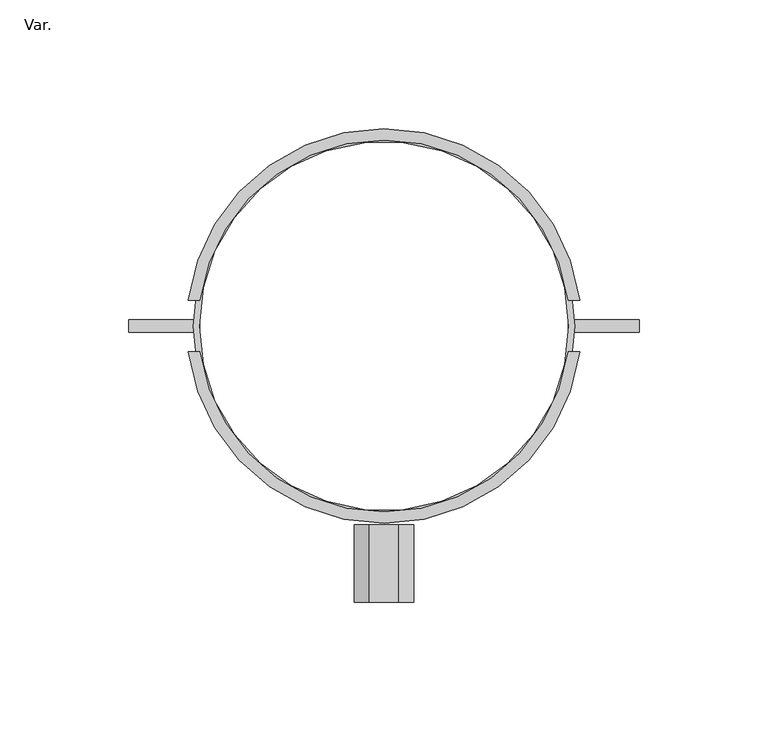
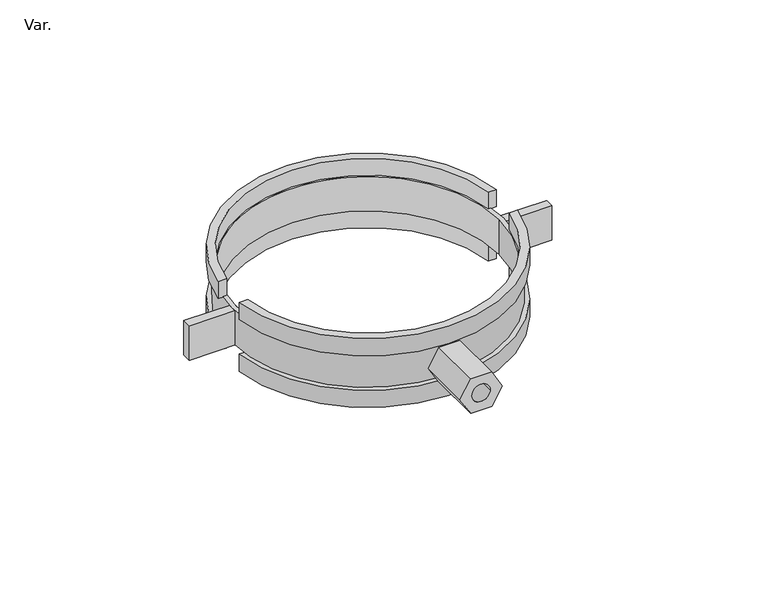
"""IFC4 building model written with IfcOpenShell, lengths in millimetres: pipe fitting geometry, AmancoWavin_Unionesdetubería_SilentiumAbrazaderaIsofonicahorizontal : Var.."""

from ifc_helpers import new_model, si_unit, point, frame, origin, origin_2d, place, context, project, spatial, polyline, circle_curve, trimmed, segment, composite_curve, outline, extrude, source, transform, mapped, element, save


def var_dc387d2e(model_context):
    return source(origin(), model_context, "Body", "SweptSolid", [
        extrude(outline(polyline([(0.0, -11.5470054), (-10.0, -5.7735027), (-10.0, 5.7735027), (0.0, 11.5470054), (10.0, 5.7735027), (10.0, -5.7735027), (0.0, -11.5470054)]), holes=[composite_curve([segment(trimmed(circle_curve(origin_2d(), 5.0), [point((0.0, -5.0))], [point((0.0, 5.0))], True, "CARTESIAN"), True, "CONTINUOUS"), segment(trimmed(circle_curve(origin_2d(), 5.0), [point((0.0, 5.0))], [point((0.0, -5.0))], True, "CARTESIAN"), True, "CONTINUOUS")], self_intersect=False)]), frame((0.0, -107.25, 0.0), z_axis=(0.0, 1.0, 0.0), x_axis=(0.0, 0.0, 1.0)), (0.0, 0.0, 1.0), 30.0),
        extrude(outline(composite_curve([segment(trimmed(circle_curve(origin_2d(), 74.2), [point((-74.2, 0.0))], [point((74.2, 0.0))], False, "CARTESIAN"), True, "CONTINUOUS"), segment(trimmed(circle_curve(origin_2d(), 74.2), [point((74.2, 0.0))], [point((-74.2, 0.0))], False, "CARTESIAN"), True, "CONTINUOUS")], self_intersect=False), holes=[composite_curve([segment(trimmed(circle_curve(origin_2d(), 71.7), [point((-71.7, 0.0))], [point((71.7, 0.0))], True, "CARTESIAN"), True, "CONTINUOUS"), segment(trimmed(circle_curve(origin_2d(), 71.7), [point((71.7, 0.0))], [point((-71.7, 0.0))], True, "CARTESIAN"), True, "CONTINUOUS")], self_intersect=False)]), frame((0.0, 0.0, -10.0), z_axis=(0.0, 0.0, 1.0), x_axis=(1.0, 0.0, 0.0)), (0.0, 0.0, 1.0), 20.0),
        extrude(outline(composite_curve([segment(trimmed(circle_curve(origin_2d(), 72.25), [point((-71.554612, -10.0))], [point((71.554612, -10.0))], True, "CARTESIAN"), True, "CONTINUOUS"), segment(polyline([(71.554612, -10.0), (76.0453154, -10.0)]), True, "CONTINUOUS"), segment(trimmed(circle_curve(origin_2d(), 76.7), [point((76.0453154, -10.0))], [point((-76.0453154, -10.0))], False, "CARTESIAN"), True, "CONTINUOUS"), segment(polyline([(-76.0453154, -10.0), (-71.554612, -10.0)]), True, "CONTINUOUS")], self_intersect=False)), frame((0.0, 0.0, 10.0), z_axis=(0.0, 0.0, 1.0), x_axis=(1.0, 0.0, 0.0)), (0.0, 0.0, 1.0), 10.0),
        extrude(outline(composite_curve([segment(trimmed(circle_curve(origin_2d(), 72.25), [point((71.554612, 10.0))], [point((-71.554612, 10.0))], True, "CARTESIAN"), True, "CONTINUOUS"), segment(polyline([(-71.554612, 10.0), (-76.0453154, 10.0)]), True, "CONTINUOUS"), segment(trimmed(circle_curve(origin_2d(), 76.7), [point((-76.0453154, 10.0))], [point((76.0453154, 10.0))], False, "CARTESIAN"), True, "CONTINUOUS"), segment(polyline([(76.0453154, 10.0), (71.554612, 10.0)]), True, "CONTINUOUS")], self_intersect=False)), frame((0.0, 0.0, 10.0), z_axis=(0.0, 0.0, 1.0), x_axis=(1.0, 0.0, 0.0)), (0.0, 0.0, 1.0), 10.0),
        extrude(outline(composite_curve([segment(polyline([(71.554612, -10.0), (76.0453154, -10.0)]), True, "CONTINUOUS"), segment(trimmed(circle_curve(origin_2d(), 76.7), [point((76.0453154, -10.0))], [point((-76.0453154, -10.0))], False, "CARTESIAN"), True, "CONTINUOUS"), segment(polyline([(-76.0453154, -10.0), (-71.554612, -10.0)]), True, "CONTINUOUS"), segment(trimmed(circle_curve(origin_2d(), 72.25), [point((-71.554612, -10.0))], [point((71.554612, -10.0))], True, "CARTESIAN"), True, "CONTINUOUS")], self_intersect=False)), frame((0.0, 0.0, -20.0), z_axis=(0.0, 0.0, 1.0), x_axis=(1.0, 0.0, 0.0)), (0.0, 0.0, 1.0), 10.0),
        extrude(outline(composite_curve([segment(polyline([(-71.554612, 10.0), (-76.0453154, 10.0)]), True, "CONTINUOUS"), segment(trimmed(circle_curve(origin_2d(), 76.7), [point((-76.0453154, 10.0))], [point((76.0453154, 10.0))], False, "CARTESIAN"), True, "CONTINUOUS"), segment(polyline([(76.0453154, 10.0), (71.554612, 10.0)]), True, "CONTINUOUS"), segment(trimmed(circle_curve(origin_2d(), 72.25), [point((71.554612, 10.0))], [point((-71.554612, 10.0))], True, "CARTESIAN"), True, "CONTINUOUS")], self_intersect=False)), frame((0.0, 0.0, -20.0), z_axis=(0.0, 0.0, 1.0), x_axis=(1.0, 0.0, 0.0)), (0.0, 0.0, 1.0), 10.0),
        extrude(outline(polyline([(-99.23, 2.5), (-71.7, 2.5), (-71.7, -2.5), (-99.23, -2.5), (-99.23, 2.5)])), frame((0.0, 0.0, -10.0), z_axis=(0.0, 0.0, 1.0), x_axis=(1.0, 0.0, 0.0)), (0.0, 0.0, 1.0), 20.0),
        extrude(outline(polyline([(99.23, 2.5), (99.23, -2.5), (71.7, -2.5), (71.7, 2.5), (99.23, 2.5)])), frame((0.0, 0.0, -10.0), z_axis=(0.0, 0.0, 1.0), x_axis=(1.0, 0.0, 0.0)), (0.0, 0.0, 1.0), 20.0),
    ])


if __name__ == "__main__":
    model = new_model("IFC4")
    model_context = context("Model", 3, world=origin())
    ifc_project = project(units=[si_unit("LENGTHUNIT", "METRE", prefix="MILLI")], contexts=[model_context])
    site = spatial("IfcSite", under=ifc_project)
    building = spatial("IfcBuilding", under=site)
    placement = place(None, origin())
    var_shape = var_dc387d2e(model_context)
    element("IfcPipeFitting", 1, ObjectType="AmancoWavin_Unionesdetubería_SilentiumAbrazaderaIsofonicahorizontal : Var.", at=placement, inside=building, context=model_context, shape_type="MappedRepresentation", body=[
        mapped(var_shape, transform((0.0, 0.0, 0.0), x_axis=(1.0, 0.0, 0.0), y_axis=(0.0, 1.0, 0.0), z_axis=(0.0, 0.0, 1.0))),
    ])
    save(model, "model.ifc")
